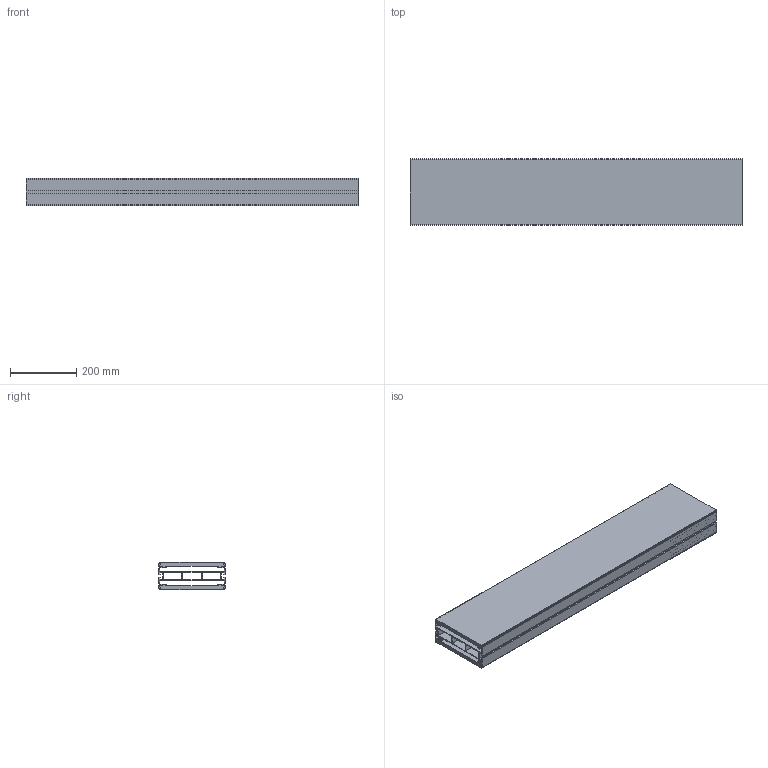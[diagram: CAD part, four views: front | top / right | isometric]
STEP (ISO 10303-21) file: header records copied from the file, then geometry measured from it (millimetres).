
FILE_DESCRIPTION (( 'STEP AP214' ), '1' );
FILE_NAME ('924179 CS200SL Baansectie recht 1000mm.STEP', '2017-12-20T16:24:18', ( '' ), ( '' ), 'SwSTEP 2.0', 'SolidWorks 2017', '' );
FILE_SCHEMA (( 'AUTOMOTIVE_DESIGN' ));
Length unit declared in the file: millimetre
Products named in the file (1): 924179 CS200SL Baansectie recht 1000mm
Bounding box: 1000 x 200 x 84 mm (x, y, z)
Volume: 6793287.4 mm3; surface area: 2157575.9 mm2
Topology: 1 solids, 1 shells, 170 faces, 504 edges, 336 vertices
Faces by surface type: plane 130, cylinder 40
Entity records: 5702 total; most frequent: CARTESIAN_POINT 1011, ORIENTED_EDGE 1008, DIRECTION 926, EDGE_CURVE 504, LINE 424, VECTOR 424, VERTEX_POINT 336, AXIS2_PLACEMENT_3D 251
